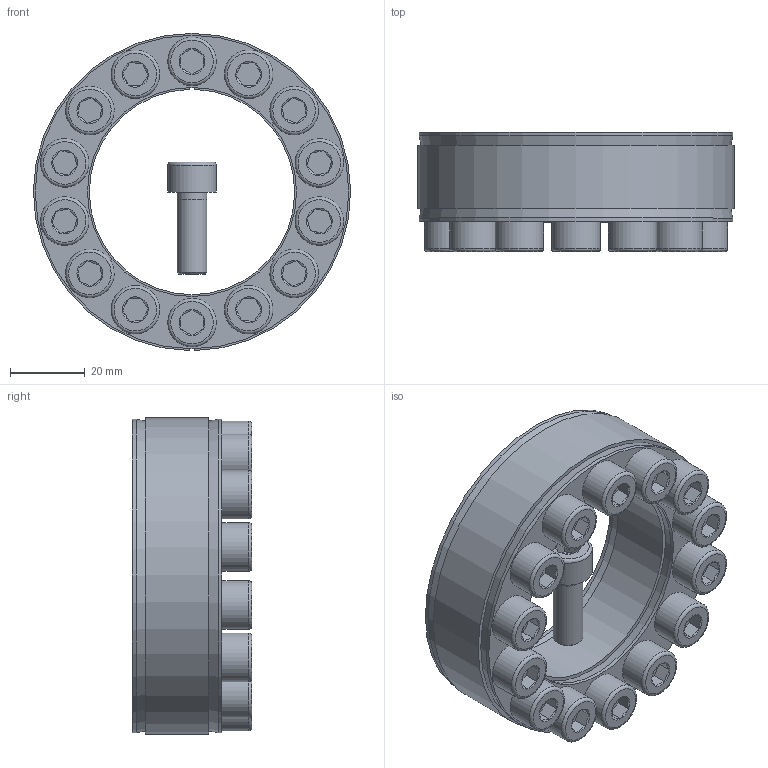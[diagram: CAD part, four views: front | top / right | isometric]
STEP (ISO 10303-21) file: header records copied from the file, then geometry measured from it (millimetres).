
FILE_DESCRIPTION( ( 'Unknown' ), '1' );
FILE_NAME( 'C:/Dokumente und Einstellungen/Sven/Desktop/homepage/cad - homepage/KBS40/KBS 40 - 55 x 85.stp', 'Unknown', ( 'Unknown' ), ( 'Unknown' ), 'XStep 1.0', 'Unknown', ' ' );
FILE_SCHEMA( ( 'automotive_design' ) );
Length unit declared in the file: millimetre
Products named in the file (16): Assem1; KBS 40 55x85; ISO 4762 M8x22; ISO 4762 M8x22-oa0; ISO 4762 M8x22-oa1; ISO 4762 M8x22-oa2; ISO 4762 M8x22-oa3; ISO 4762 M8x22-oa4; ISO 4762 M8x22-oa5; ISO 4762 M8x22-oa6; ISO 4762 M8x22-oa7; ISO 4762 M8x22-oa8; ISO 4762 M8x22-oa9; ISO 4762 M8x22-oa10; ISO 4762 M8x22-oa11; ISO 4762 M8x22-oa12
Bounding box: 85 x 32 x 84.99 mm (x, y, z)
Volume: 177197.8 mm3; surface area: 83837.5 mm2
Topology: 30 solids, 30 shells, 788 faces, 1456 edges, 840 vertices
Faces by surface type: plane 376, cone 204, cylinder 152, torus 56
Full cylindrical faces by diameter (mm): 7 x28, 8 x84, 13 x28, 56 x4, 84 x4
Entity records: 9689 total; most frequent: CARTESIAN_POINT 2022, DIRECTION 1600, ORIENTED_EDGE 1156, AXIS2_PLACEMENT_3D 696, EDGE_LOOP 600, EDGE_CURVE 578, FACE_OUTER_BOUND 496, ADVANCED_FACE 394
